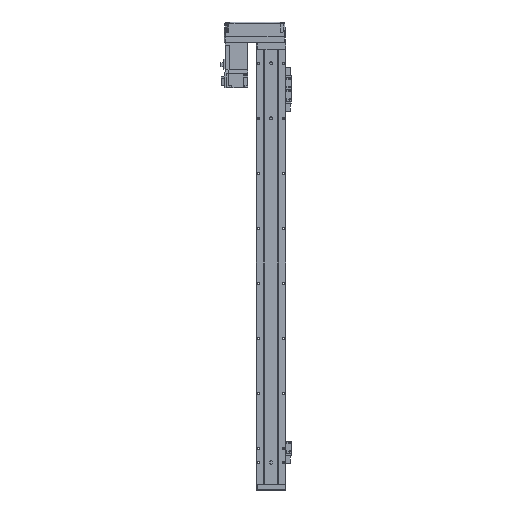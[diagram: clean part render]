
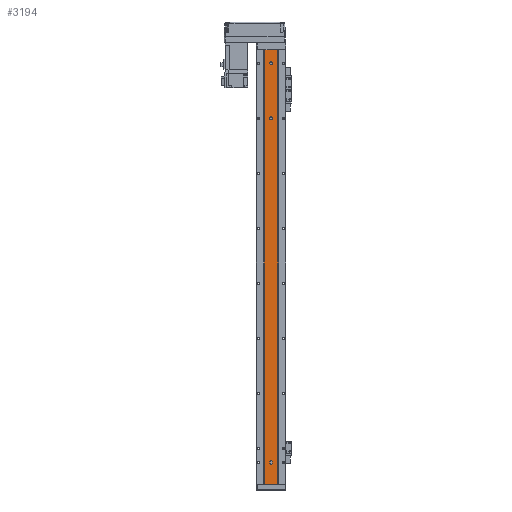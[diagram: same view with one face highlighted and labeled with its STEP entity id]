
A CAD part, front view. The second image highlights one B-rep face of the part: STEP entity #3194.
In plain terms, the highlighted planar face has unit normal (0, -1, 0).
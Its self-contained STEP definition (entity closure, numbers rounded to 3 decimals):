
#260 = EDGE_LOOP ( 'NONE', ( #13384, #7725 ) ) ;
#438 = DIRECTION ( 'NONE',  ( 0., 0., 1. ) ) ;
#893 = ORIENTED_EDGE ( 'NONE', *, *, #39216, .T. ) ;
#1175 = AXIS2_PLACEMENT_3D ( 'NONE', #22151, #3852, #25206 ) ;
#1415 = DIRECTION ( 'NONE',  ( 1., 0., 0. ) ) ;
#1726 = ORIENTED_EDGE ( 'NONE', *, *, #24196, .F. ) ;
#2728 = ORIENTED_EDGE ( 'NONE', *, *, #12699, .F. ) ;
#2744 = EDGE_CURVE ( 'NONE', #22273, #24963, #29252, .T. ) ;
#2931 = FACE_BOUND ( 'NONE', #4241, .T. ) ;
#3194 = ADVANCED_FACE ( 'NONE', ( #33007, #2931, #11934, #29177 ), #11537, .T. ) ;
#3358 = LINE ( 'NONE', #23866, #32466 ) ;
#3852 = DIRECTION ( 'NONE',  ( 0., -1., 0. ) ) ;
#3941 = ORIENTED_EDGE ( 'NONE', *, *, #2744, .F. ) ;
#4150 = ORIENTED_EDGE ( 'NONE', *, *, #32600, .F. ) ;
#4241 = EDGE_LOOP ( 'NONE', ( #2728, #15332 ) ) ;
#4292 = VERTEX_POINT ( 'NONE', #7148 ) ;
#4347 = DIRECTION ( 'NONE',  ( 0., -1., 0. ) ) ;
#4362 = CARTESIAN_POINT ( 'NONE',  ( 12.293, 1.5, -790. ) ) ;
#4477 = CARTESIAN_POINT ( 'NONE',  ( 0., 1.5, -125. ) ) ;
#5326 = AXIS2_PLACEMENT_3D ( 'NONE', #14988, #5912, #18085 ) ;
#5429 = CARTESIAN_POINT ( 'NONE',  ( 12.293, 1.5, -790. ) ) ;
#5830 = LINE ( 'NONE', #4362, #19180 ) ;
#5912 = DIRECTION ( 'NONE',  ( 0., -1., 0. ) ) ;
#6025 = CIRCLE ( 'NONE', #30682, 2.5 ) ;
#7124 = AXIS2_PLACEMENT_3D ( 'NONE', #5429, #17433, #20512 ) ;
#7148 = CARTESIAN_POINT ( 'NONE',  ( 2.5, 1.5, -125. ) ) ;
#7595 = CARTESIAN_POINT ( 'NONE',  ( -2.5, 1.5, -125. ) ) ;
#7725 = ORIENTED_EDGE ( 'NONE', *, *, #25605, .F. ) ;
#7994 = VERTEX_POINT ( 'NONE', #12593 ) ;
#8097 = CIRCLE ( 'NONE', #1175, 2.5 ) ;
#8197 = EDGE_CURVE ( 'NONE', #24963, #31242, #6025, .T. ) ;
#9866 = CARTESIAN_POINT ( 'NONE',  ( -12.293, 1.5, 0. ) ) ;
#9873 = CARTESIAN_POINT ( 'NONE',  ( -12.293, 1.5, -790. ) ) ;
#10092 = CARTESIAN_POINT ( 'NONE',  ( -2.5, 1.5, -751. ) ) ;
#10120 = EDGE_CURVE ( 'NONE', #26437, #13093, #37732, .T. ) ;
#10393 = VERTEX_POINT ( 'NONE', #31290 ) ;
#11301 = CIRCLE ( 'NONE', #24425, 2.5 ) ;
#11537 = PLANE ( 'NONE',  #7124 ) ;
#11624 = EDGE_LOOP ( 'NONE', ( #20261, #32384, #893, #38206 ) ) ;
#11911 = VECTOR ( 'NONE', #37739, 1000. ) ;
#11934 = FACE_BOUND ( 'NONE', #260, .T. ) ;
#12165 = DIRECTION ( 'NONE',  ( 1., 0., 0. ) ) ;
#12593 = CARTESIAN_POINT ( 'NONE',  ( 2.5, 1.5, -749. ) ) ;
#12694 = CARTESIAN_POINT ( 'NONE',  ( -12.293, 1.5, -790. ) ) ;
#12699 = EDGE_CURVE ( 'NONE', #4292, #24440, #8097, .T. ) ;
#12724 = CARTESIAN_POINT ( 'NONE',  ( -2.5, 1.5, -25. ) ) ;
#12930 = EDGE_CURVE ( 'NONE', #25715, #10393, #3358, .T. ) ;
#13093 = VERTEX_POINT ( 'NONE', #12724 ) ;
#13384 = ORIENTED_EDGE ( 'NONE', *, *, #10120, .F. ) ;
#13412 = DIRECTION ( 'NONE',  ( 0., -1., 0. ) ) ;
#13415 = DIRECTION ( 'NONE',  ( 0., -1., 0. ) ) ;
#13428 = CARTESIAN_POINT ( 'NONE',  ( 12.293, 1.5, 0. ) ) ;
#13508 = CIRCLE ( 'NONE', #20698, 2.5 ) ;
#14975 = EDGE_CURVE ( 'NONE', #24440, #4292, #13508, .T. ) ;
#14988 = CARTESIAN_POINT ( 'NONE',  ( 0., 1.5, -749. ) ) ;
#14989 = LINE ( 'NONE', #12694, #37930 ) ;
#15332 = ORIENTED_EDGE ( 'NONE', *, *, #14975, .F. ) ;
#15640 = CARTESIAN_POINT ( 'NONE',  ( 2.5, 1.5, -25. ) ) ;
#16329 = VERTEX_POINT ( 'NONE', #9866 ) ;
#16568 = CARTESIAN_POINT ( 'NONE',  ( 2.5, 1.5, -751. ) ) ;
#17433 = DIRECTION ( 'NONE',  ( 0., -1., 0. ) ) ;
#17535 = DIRECTION ( 'NONE',  ( 1., 0., 0. ) ) ;
#17879 = CARTESIAN_POINT ( 'NONE',  ( -2.5, 1.5, -790. ) ) ;
#18085 = DIRECTION ( 'NONE',  ( 1., 0., 0. ) ) ;
#19097 = LINE ( 'NONE', #13428, #11911 ) ;
#19180 = VECTOR ( 'NONE', #17535, 1000. ) ;
#19670 = CARTESIAN_POINT ( 'NONE',  ( 0., 1.5, -25. ) ) ;
#20134 = VECTOR ( 'NONE', #438, 1000. ) ;
#20261 = ORIENTED_EDGE ( 'NONE', *, *, #32199, .F. ) ;
#20512 = DIRECTION ( 'NONE',  ( 1., 0., 0. ) ) ;
#20698 = AXIS2_PLACEMENT_3D ( 'NONE', #4477, #13415, #1415 ) ;
#21127 = VECTOR ( 'NONE', #29503, 1000. ) ;
#21418 = CARTESIAN_POINT ( 'NONE',  ( 2.5, 1.5, -790. ) ) ;
#21563 = CARTESIAN_POINT ( 'NONE',  ( 0., 1.5, -25. ) ) ;
#22151 = CARTESIAN_POINT ( 'NONE',  ( 0., 1.5, -125. ) ) ;
#22273 = VERTEX_POINT ( 'NONE', #27187 ) ;
#22585 = LINE ( 'NONE', #21418, #20134 ) ;
#22885 = CIRCLE ( 'NONE', #5326, 2.5 ) ;
#23480 = DIRECTION ( 'NONE',  ( 0., 0., 1. ) ) ;
#23866 = CARTESIAN_POINT ( 'NONE',  ( 12.293, 1.5, -790. ) ) ;
#23907 = CARTESIAN_POINT ( 'NONE',  ( 12.293, 1.5, -790. ) ) ;
#24196 = EDGE_CURVE ( 'NONE', #31242, #7994, #22585, .T. ) ;
#24425 = AXIS2_PLACEMENT_3D ( 'NONE', #19670, #4347, #25708 ) ;
#24440 = VERTEX_POINT ( 'NONE', #7595 ) ;
#24963 = VERTEX_POINT ( 'NONE', #10092 ) ;
#25206 = DIRECTION ( 'NONE',  ( 1., 0., 0. ) ) ;
#25605 = EDGE_CURVE ( 'NONE', #13093, #26437, #11301, .T. ) ;
#25708 = DIRECTION ( 'NONE',  ( 1., 0., 0. ) ) ;
#25715 = VERTEX_POINT ( 'NONE', #23907 ) ;
#26437 = VERTEX_POINT ( 'NONE', #15640 ) ;
#27187 = CARTESIAN_POINT ( 'NONE',  ( -2.5, 1.5, -749. ) ) ;
#27678 = AXIS2_PLACEMENT_3D ( 'NONE', #21563, #33847, #12165 ) ;
#29177 = FACE_OUTER_BOUND ( 'NONE', #11624, .T. ) ;
#29252 = LINE ( 'NONE', #17879, #21127 ) ;
#29503 = DIRECTION ( 'NONE',  ( 0., 0., -1. ) ) ;
#30682 = AXIS2_PLACEMENT_3D ( 'NONE', #31703, #13412, #34779 ) ;
#30997 = EDGE_CURVE ( 'NONE', #38430, #16329, #14989, .T. ) ;
#31242 = VERTEX_POINT ( 'NONE', #16568 ) ;
#31290 = CARTESIAN_POINT ( 'NONE',  ( 12.293, 1.5, 0. ) ) ;
#31703 = CARTESIAN_POINT ( 'NONE',  ( 0., 1.5, -751. ) ) ;
#32199 = EDGE_CURVE ( 'NONE', #16329, #10393, #19097, .T. ) ;
#32384 = ORIENTED_EDGE ( 'NONE', *, *, #30997, .F. ) ;
#32466 = VECTOR ( 'NONE', #23480, 1000. ) ;
#32600 = EDGE_CURVE ( 'NONE', #7994, #22273, #22885, .T. ) ;
#33007 = FACE_BOUND ( 'NONE', #33647, .T. ) ;
#33647 = EDGE_LOOP ( 'NONE', ( #34298, #3941, #4150, #1726 ) ) ;
#33847 = DIRECTION ( 'NONE',  ( 0., -1., 0. ) ) ;
#34298 = ORIENTED_EDGE ( 'NONE', *, *, #8197, .F. ) ;
#34779 = DIRECTION ( 'NONE',  ( 1., 0., 0. ) ) ;
#36529 = DIRECTION ( 'NONE',  ( 0., 0., 1. ) ) ;
#37732 = CIRCLE ( 'NONE', #27678, 2.5 ) ;
#37739 = DIRECTION ( 'NONE',  ( 1., 0., 0. ) ) ;
#37930 = VECTOR ( 'NONE', #36529, 1000. ) ;
#38206 = ORIENTED_EDGE ( 'NONE', *, *, #12930, .T. ) ;
#38430 = VERTEX_POINT ( 'NONE', #9873 ) ;
#39216 = EDGE_CURVE ( 'NONE', #38430, #25715, #5830, .T. ) ;
